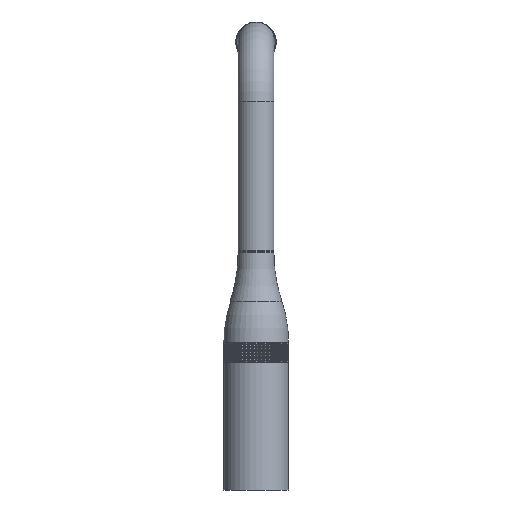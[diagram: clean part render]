
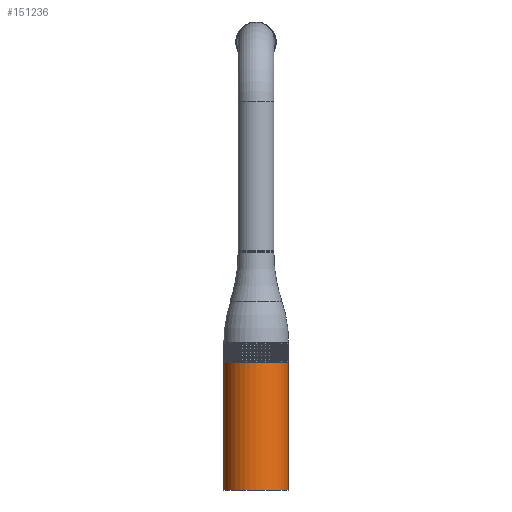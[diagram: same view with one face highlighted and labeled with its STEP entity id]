
A CAD part, left-side view. The second image highlights one B-rep face of the part: STEP entity #151236.
In plain terms, the highlighted cylindrical face has radius 25.5 mm (diameter 51 mm), a full revolution.
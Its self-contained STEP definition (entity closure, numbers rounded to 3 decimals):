
#2147=CYLINDRICAL_SURFACE('',#166387,25.5);
#66747=ORIENTED_EDGE('',*,*,#92978,.T.);
#66748=ORIENTED_EDGE('',*,*,#92977,.F.);
#92977=EDGE_CURVE('',#109886,#109886,#122571,.T.);
#92978=EDGE_CURVE('',#109887,#109887,#122572,.T.);
#109886=VERTEX_POINT('',#262915);
#109887=VERTEX_POINT('',#262918);
#122571=CIRCLE('',#166386,25.5);
#122572=CIRCLE('',#166388,25.5);
#133121=EDGE_LOOP('',(#66747));
#133122=EDGE_LOOP('',(#66748));
#142151=FACE_BOUND('',#133121,.T.);
#142152=FACE_BOUND('',#133122,.T.);
#151236=ADVANCED_FACE('',(#142151,#142152),#2147,.T.);
#166386=AXIS2_PLACEMENT_3D('',#262914,#200922,#200923);
#166387=AXIS2_PLACEMENT_3D('',#262916,#200924,#200925);
#166388=AXIS2_PLACEMENT_3D('',#262917,#200926,#200927);
#200922=DIRECTION('',(0.,0.,-1.));
#200923=DIRECTION('',(0.,-1.,0.));
#200924=DIRECTION('',(0.,0.,-1.));
#200925=DIRECTION('',(0.,-1.,0.));
#200926=DIRECTION('',(0.,0.,-1.));
#200927=DIRECTION('',(0.,-1.,0.));
#262914=CARTESIAN_POINT('',(0.,0.,0.));
#262915=CARTESIAN_POINT('',(0.,-25.5,0.));
#262916=CARTESIAN_POINT('',(0.,0.,-57.));
#262917=CARTESIAN_POINT('',(0.,0.,99.5));
#262918=CARTESIAN_POINT('',(0.,-25.5,99.5));
